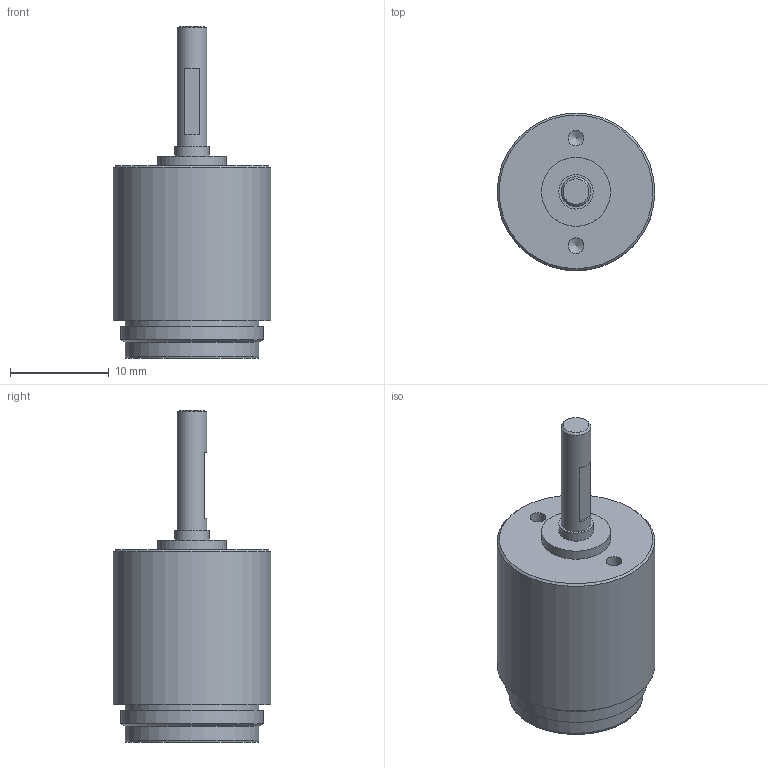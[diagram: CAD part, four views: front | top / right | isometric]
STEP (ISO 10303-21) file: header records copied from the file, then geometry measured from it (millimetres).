
FILE_DESCRIPTION(/* description */ (''),/* implementation_level */ '2;1');
FILE_NAME(/* name */ '16-7_3.stp',/* time_stamp */ '2016-09-09T14:59:59+02:00',/* author */ ('DR. FRITZ FAULHABER GmbH & Co. KG'),/* organization */ ('DR. FRITZ FAULHABER GmbH & Co. KG'),/* preprocessor_version */ 'ST-DEVELOPER v16',/* originating_system */ 'SIEMENS PLM Software NX 10.0',/* authorisation */ '');
FILE_SCHEMA (('AUTOMOTIVE_DESIGN { 1 0 10303 214 3 1 1 1 }'));
Length unit declared in the file: millimetre
Products named in the file (1): H00000446_A
Bounding box: 16 x 16 x 33.7 mm (x, y, z)
Volume: 3771.5 mm3; surface area: 1626.6 mm2
Topology: 1 solids, 1 shells, 27 faces, 63 edges, 51 vertices
Faces by surface type: plane 11, cylinder 10, cone 6
Full cylindrical faces by diameter (mm): 1.6 x2, 3 x1, 3.5 x1, 6 x1, 7 x1, 13.6 x2, 14.5 x1, 16 x1
Entity records: 705 total; most frequent: DIRECTION 129, CARTESIAN_POINT 99, AXIS2_PLACEMENT_3D 60, ORIENTED_EDGE 58, EDGE_LOOP 50, FACE_BOUND 47, CIRCLE 32, VERTEX_POINT 29
